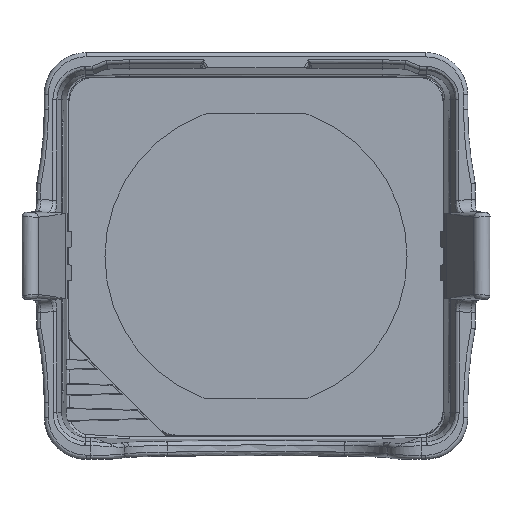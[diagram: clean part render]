
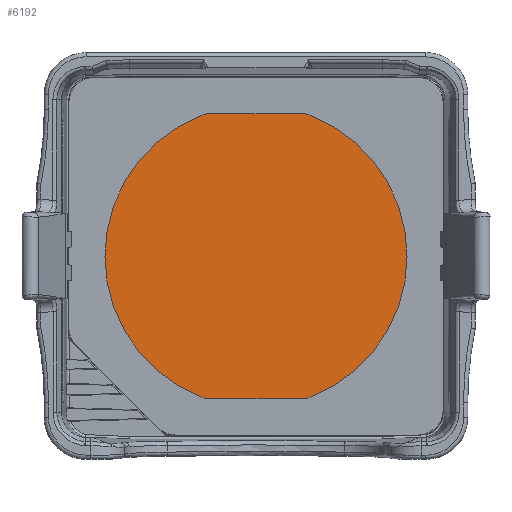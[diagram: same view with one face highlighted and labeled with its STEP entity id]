
A CAD part, top view. The second image highlights one B-rep face of the part: STEP entity #6192.
In plain terms, the highlighted planar face has unit normal (0, 0, 1).
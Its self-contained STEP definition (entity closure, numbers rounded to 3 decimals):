
#664=FACE_OUTER_BOUND('',#1047,.T.);
#1047=EDGE_LOOP('',(#4286,#4287,#4288,#4289,#4290,#4291,#4292,#4293));
#1391=CIRCLE('',#6555,3.);
#1394=CIRCLE('',#6560,3.);
#1396=CIRCLE('',#6563,3.);
#1397=CIRCLE('',#6566,3.);
#1400=CIRCLE('',#6570,18.);
#1414=CIRCLE('',#6595,18.);
#1544=LINE('',#8585,#2013);
#1552=LINE('',#8609,#2021);
#2013=VECTOR('',#7085,10.);
#2021=VECTOR('',#7107,10.);
#2482=VERTEX_POINT('',#8575);
#2483=VERTEX_POINT('',#8576);
#2486=VERTEX_POINT('',#8584);
#2489=VERTEX_POINT('',#8592);
#2492=VERTEX_POINT('',#8599);
#2493=VERTEX_POINT('',#8601);
#2495=VERTEX_POINT('',#8607);
#2496=VERTEX_POINT('',#8611);
#3082=EDGE_CURVE('',#2482,#2483,#1391,.T.);
#3086=EDGE_CURVE('',#2486,#2482,#1544,.T.);
#3090=EDGE_CURVE('',#2489,#2486,#1394,.T.);
#3094=EDGE_CURVE('',#2493,#2492,#1396,.T.);
#3098=EDGE_CURVE('',#2492,#2495,#1552,.T.);
#3099=EDGE_CURVE('',#2495,#2496,#1397,.T.);
#3103=EDGE_CURVE('',#2483,#2493,#1400,.T.);
#3135=EDGE_CURVE('',#2496,#2489,#1414,.T.);
#4286=ORIENTED_EDGE('',*,*,#3094,.T.);
#4287=ORIENTED_EDGE('',*,*,#3098,.T.);
#4288=ORIENTED_EDGE('',*,*,#3099,.T.);
#4289=ORIENTED_EDGE('',*,*,#3135,.T.);
#4290=ORIENTED_EDGE('',*,*,#3090,.T.);
#4291=ORIENTED_EDGE('',*,*,#3086,.T.);
#4292=ORIENTED_EDGE('',*,*,#3082,.T.);
#4293=ORIENTED_EDGE('',*,*,#3103,.T.);
#6030=PLANE('',#6652);
#6192=ADVANCED_FACE('',(#664),#6030,.T.);
#6555=AXIS2_PLACEMENT_3D('',#8577,#7077,#7078);
#6560=AXIS2_PLACEMENT_3D('',#8593,#7092,#7093);
#6563=AXIS2_PLACEMENT_3D('',#8602,#7100,#7101);
#6566=AXIS2_PLACEMENT_3D('',#8612,#7110,#7111);
#6570=AXIS2_PLACEMENT_3D('',#8618,#7119,#7120);
#6595=AXIS2_PLACEMENT_3D('',#8681,#7187,#7188);
#6652=AXIS2_PLACEMENT_3D('',#8835,#7345,#7346);
#7077=DIRECTION('center_axis',(0.,0.,
1.));
#7078=DIRECTION('ref_axis',(0.183,-0.983,0.));
#7085=DIRECTION('',(1.,0.,0.));
#7092=DIRECTION('center_axis',(0.,0.,
1.));
#7093=DIRECTION('ref_axis',(-0.183,-0.983,0.));
#7100=DIRECTION('center_axis',(0.,0.,
1.));
#7101=DIRECTION('ref_axis',(0.183,0.983,0.));
#7107=DIRECTION('',(-1.,0.,0.));
#7110=DIRECTION('center_axis',(0.,0.,
1.));
#7111=DIRECTION('ref_axis',(-0.183,0.983,0.));
#7119=DIRECTION('center_axis',(0.,0.,
1.));
#7120=DIRECTION('ref_axis',(-1.,0.,0.));
#7187=DIRECTION('center_axis',(0.,0.,
1.));
#7188=DIRECTION('ref_axis',(-1.,0.,0.));
#7345=DIRECTION('center_axis',(0.,0.,
1.));
#7346=DIRECTION('ref_axis',(1.,0.,0.));
#8575=CARTESIAN_POINT('',(5.385,-17.,5.6));
#8576=CARTESIAN_POINT('',(6.462,-16.8,5.6));
#8577=CARTESIAN_POINT('Origin',(5.385,-14.,5.6));
#8584=CARTESIAN_POINT('',(-5.385,-17.,5.6));
#8585=CARTESIAN_POINT('',(-2.958,-17.,5.6));
#8592=CARTESIAN_POINT('',(-6.462,-16.8,5.6));
#8593=CARTESIAN_POINT('Origin',(-5.385,-14.,5.6));
#8599=CARTESIAN_POINT('',(5.385,17.,5.6));
#8601=CARTESIAN_POINT('',(6.462,16.8,5.6));
#8602=CARTESIAN_POINT('Origin',(5.385,14.,5.6));
#8607=CARTESIAN_POINT('',(-5.385,17.,5.6));
#8609=CARTESIAN_POINT('',(2.958,17.,5.6));
#8611=CARTESIAN_POINT('',(-6.462,16.8,5.6));
#8612=CARTESIAN_POINT('Origin',(-5.385,14.,5.6));
#8618=CARTESIAN_POINT('Origin',(0.,0.,
5.6));
#8681=CARTESIAN_POINT('Origin',(0.,0.,
5.6));
#8835=CARTESIAN_POINT('Origin',(0.,0.,
5.6));
